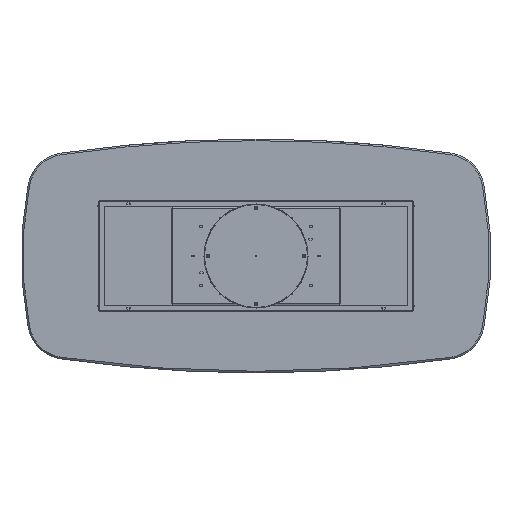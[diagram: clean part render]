
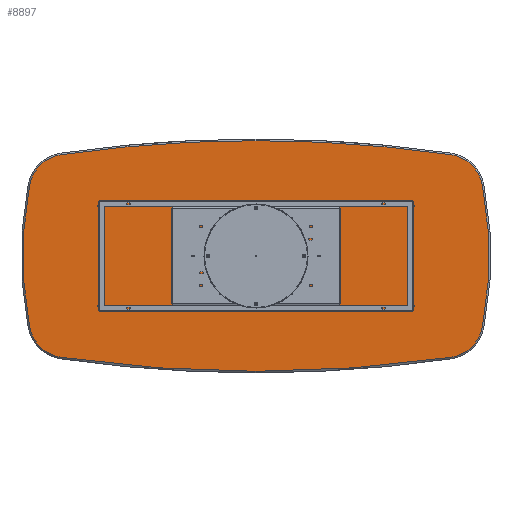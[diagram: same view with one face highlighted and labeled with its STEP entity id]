
A CAD part, front view. The second image highlights one B-rep face of the part: STEP entity #8897.
In plain terms, the highlighted planar face has unit normal (0, -1, 0).
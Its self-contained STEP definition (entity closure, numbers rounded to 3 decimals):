
#67 = AXIS2_PLACEMENT_3D ( 'NONE', #12849, #2958, #7349 ) ;
#76 = DIRECTION ( 'NONE',  ( 0., 0., 1. ) ) ;
#408 = DIRECTION ( 'NONE',  ( 0., 0., 1. ) ) ;
#601 = CARTESIAN_POINT ( 'NONE',  ( 0., 0., 587. ) ) ;
#647 = EDGE_CURVE ( 'NONE', #13528, #13906, #14092, .T. ) ;
#664 = CARTESIAN_POINT ( 'NONE',  ( -990.878, 0., -515.919 ) ) ;
#865 = ORIENTED_EDGE ( 'NONE', *, *, #4733, .T. ) ;
#961 = CIRCLE ( 'NONE', #5127, 192. ) ;
#1113 = EDGE_CURVE ( 'NONE', #3854, #12583, #961, .T. ) ;
#1120 = DIRECTION ( 'NONE',  ( 0., -1., 0. ) ) ;
#1132 = PLANE ( 'NONE',  #4200 ) ;
#1198 = DIRECTION ( 'NONE',  ( 0., 1., 0. ) ) ;
#1245 = ORIENTED_EDGE ( 'NONE', *, *, #13699, .T. ) ;
#1408 = ORIENTED_EDGE ( 'NONE', *, *, #1768, .T. ) ;
#1440 = CIRCLE ( 'NONE', #14128, 192. ) ;
#1505 = EDGE_CURVE ( 'NONE', #13906, #3854, #4674, .T. ) ;
#1768 = EDGE_CURVE ( 'NONE', #13596, #6598, #1440, .T. ) ;
#1954 = EDGE_CURVE ( 'NONE', #6612, #6792, #8134, .T. ) ;
#1970 = ORIENTED_EDGE ( 'NONE', *, *, #1505, .T. ) ;
#2157 = CIRCLE ( 'NONE', #3313, 192. ) ;
#2241 = DIRECTION ( 'NONE',  ( 0., -1., 0. ) ) ;
#2248 = CIRCLE ( 'NONE', #11260, 192. ) ;
#2560 = EDGE_CURVE ( 'NONE', #6792, #13528, #2157, .T. ) ;
#2711 = VERTEX_POINT ( 'NONE', #12502 ) ;
#2958 = DIRECTION ( 'NONE',  ( 0., -1., 0. ) ) ;
#3313 = AXIS2_PLACEMENT_3D ( 'NONE', #13093, #8741, #11001 ) ;
#3597 = AXIS2_PLACEMENT_3D ( 'NONE', #5460, #1120, #10006 ) ;
#3854 = VERTEX_POINT ( 'NONE', #9723 ) ;
#4200 = AXIS2_PLACEMENT_3D ( 'NONE', #6551, #1198, #13275 ) ;
#4674 = CIRCLE ( 'NONE', #4896, 6942. ) ;
#4733 = EDGE_CURVE ( 'NONE', #2711, #6612, #2248, .T. ) ;
#4896 = AXIS2_PLACEMENT_3D ( 'NONE', #8803, #2241, #76 ) ;
#5078 = ORIENTED_EDGE ( 'NONE', *, *, #647, .T. ) ;
#5127 = AXIS2_PLACEMENT_3D ( 'NONE', #12312, #8373, #7891 ) ;
#5414 = AXIS2_PLACEMENT_3D ( 'NONE', #10539, #11835, #11618 ) ;
#5460 = CARTESIAN_POINT ( 'NONE',  ( 0., 0., 6355. ) ) ;
#5836 = EDGE_LOOP ( 'NONE', ( #1408, #1245, #865, #6498, #8400, #5078, #1970, #7055, #7406 ) ) ;
#5982 = DIRECTION ( 'NONE',  ( 0., 0., 1. ) ) ;
#6498 = ORIENTED_EDGE ( 'NONE', *, *, #1954, .T. ) ;
#6551 = CARTESIAN_POINT ( 'NONE',  ( -352.5, 0., 3177.5 ) ) ;
#6598 = VERTEX_POINT ( 'NONE', #664 ) ;
#6612 = VERTEX_POINT ( 'NONE', #13946 ) ;
#6792 = VERTEX_POINT ( 'NONE', #12217 ) ;
#7055 = ORIENTED_EDGE ( 'NONE', *, *, #1113, .T. ) ;
#7259 = CARTESIAN_POINT ( 'NONE',  ( -1151.911, 0., -362.691 ) ) ;
#7349 = DIRECTION ( 'NONE',  ( 0., 0., 1. ) ) ;
#7406 = ORIENTED_EDGE ( 'NONE', *, *, #11760, .T. ) ;
#7891 = DIRECTION ( 'NONE',  ( 0., 0., 1. ) ) ;
#7933 = CIRCLE ( 'NONE', #5414, 1892. ) ;
#8000 = CARTESIAN_POINT ( 'NONE',  ( -963.472, 0., -325.885 ) ) ;
#8134 = CIRCLE ( 'NONE', #67, 1892. ) ;
#8373 = DIRECTION ( 'NONE',  ( 0., -1., 0. ) ) ;
#8400 = ORIENTED_EDGE ( 'NONE', *, *, #2560, .T. ) ;
#8741 = DIRECTION ( 'NONE',  ( 0., -1., 0. ) ) ;
#8803 = CARTESIAN_POINT ( 'NONE',  ( 0., 0., -6355. ) ) ;
#8897 = ADVANCED_FACE ( 'NONE', ( #14137 ), #1132, .F. ) ;
#9072 = CARTESIAN_POINT ( 'NONE',  ( 0., 0., -6355. ) ) ;
#9723 = CARTESIAN_POINT ( 'NONE',  ( -990.878, 0., 515.919 ) ) ;
#9829 = CIRCLE ( 'NONE', #3597, 6942. ) ;
#10006 = DIRECTION ( 'NONE',  ( 0., 0., 1. ) ) ;
#10180 = DIRECTION ( 'NONE',  ( 0., -1., 0. ) ) ;
#10539 = CARTESIAN_POINT ( 'NONE',  ( 705., 0., 0. ) ) ;
#11001 = DIRECTION ( 'NONE',  ( 0., 0., 1. ) ) ;
#11260 = AXIS2_PLACEMENT_3D ( 'NONE', #13141, #12197, #14217 ) ;
#11462 = CARTESIAN_POINT ( 'NONE',  ( 990.878, 0., 515.919 ) ) ;
#11618 = DIRECTION ( 'NONE',  ( 0., 0., 1. ) ) ;
#11760 = EDGE_CURVE ( 'NONE', #12583, #13596, #7933, .T. ) ;
#11835 = DIRECTION ( 'NONE',  ( 0., -1., 0. ) ) ;
#12197 = DIRECTION ( 'NONE',  ( 0., -1., 0. ) ) ;
#12217 = CARTESIAN_POINT ( 'NONE',  ( 1151.911, 0., 362.691 ) ) ;
#12312 = CARTESIAN_POINT ( 'NONE',  ( -963.472, 0., 325.885 ) ) ;
#12379 = CARTESIAN_POINT ( 'NONE',  ( -1151.911, 0., 362.691 ) ) ;
#12502 = CARTESIAN_POINT ( 'NONE',  ( 990.878, 0., -515.919 ) ) ;
#12583 = VERTEX_POINT ( 'NONE', #12379 ) ;
#12849 = CARTESIAN_POINT ( 'NONE',  ( -705., 0., 0. ) ) ;
#13093 = CARTESIAN_POINT ( 'NONE',  ( 963.472, 0., 325.885 ) ) ;
#13141 = CARTESIAN_POINT ( 'NONE',  ( 963.472, 0., -325.885 ) ) ;
#13275 = DIRECTION ( 'NONE',  ( 0., 0., 1. ) ) ;
#13528 = VERTEX_POINT ( 'NONE', #11462 ) ;
#13556 = DIRECTION ( 'NONE',  ( 0., -1., 0. ) ) ;
#13596 = VERTEX_POINT ( 'NONE', #7259 ) ;
#13699 = EDGE_CURVE ( 'NONE', #6598, #2711, #9829, .T. ) ;
#13868 = AXIS2_PLACEMENT_3D ( 'NONE', #9072, #13556, #408 ) ;
#13906 = VERTEX_POINT ( 'NONE', #601 ) ;
#13946 = CARTESIAN_POINT ( 'NONE',  ( 1151.911, 0., -362.691 ) ) ;
#14092 = CIRCLE ( 'NONE', #13868, 6942. ) ;
#14128 = AXIS2_PLACEMENT_3D ( 'NONE', #8000, #10180, #5982 ) ;
#14137 = FACE_OUTER_BOUND ( 'NONE', #5836, .T. ) ;
#14217 = DIRECTION ( 'NONE',  ( 0., 0., 1. ) ) ;
